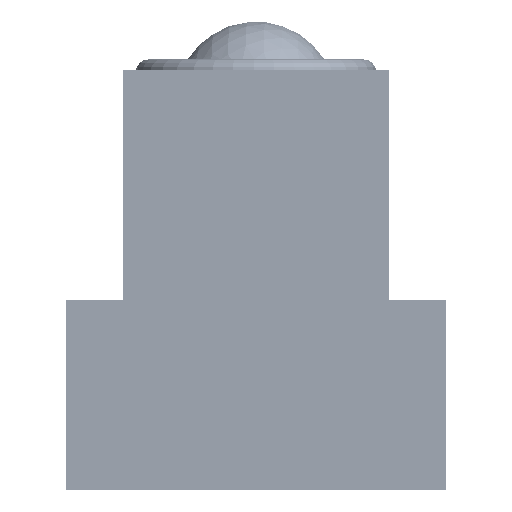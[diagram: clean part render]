
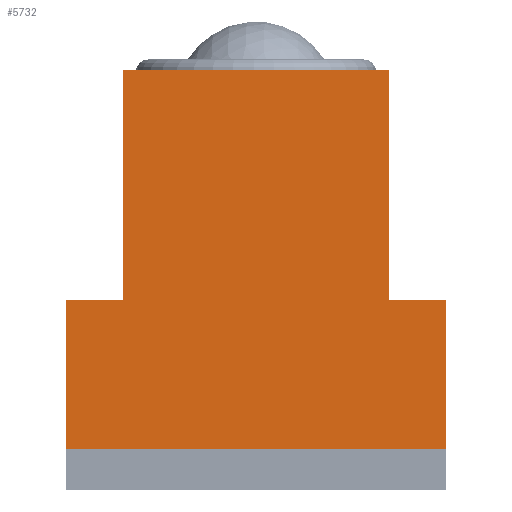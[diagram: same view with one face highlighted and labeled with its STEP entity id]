
A CAD part, left-side view. The second image highlights one B-rep face of the part: STEP entity #5732.
In plain terms, the highlighted planar face has unit normal (-1, 0, 0) as drawn and (0, 0, -1) by its records, which use the part's own axes.
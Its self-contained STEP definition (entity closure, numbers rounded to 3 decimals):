
#690=PLANE('',#6397);
#895=LINE('',#9922,#1151);
#899=LINE('',#9929,#1155);
#900=LINE('',#9933,#1156);
#904=LINE('',#9940,#1160);
#908=LINE('',#9947,#1164);
#909=LINE('',#9950,#1165);
#912=LINE('',#9956,#1168);
#915=LINE('',#9961,#1171);
#1151=VECTOR('',#7995,18.2);
#1155=VECTOR('',#8001,21.);
#1156=VECTOR('',#8004,11.8);
#1160=VECTOR('',#8010,4.5);
#1164=VECTOR('',#8016,18.2);
#1165=VECTOR('',#8019,4.5);
#1168=VECTOR('',#8024,11.8);
#1171=VECTOR('',#8029,30.);
#1948=FACE_OUTER_BOUND('',#2567,.T.);
#2567=EDGE_LOOP('',(#5190,#5191,#5192,#5193,#5194,#5195,#5196,#5197));
#3368=VERTEX_POINT('',#9919);
#3369=VERTEX_POINT('',#9921);
#3371=VERTEX_POINT('',#9927);
#3372=VERTEX_POINT('',#9931);
#3373=VERTEX_POINT('',#9932);
#3377=VERTEX_POINT('',#9945);
#3378=VERTEX_POINT('',#9949);
#3380=VERTEX_POINT('',#9955);
#3976=EDGE_CURVE('',#3368,#3369,#895,.T.);
#3980=EDGE_CURVE('',#3371,#3368,#899,.T.);
#3981=EDGE_CURVE('',#3372,#3373,#900,.T.);
#3985=EDGE_CURVE('',#3369,#3372,#904,.T.);
#3989=EDGE_CURVE('',#3377,#3371,#908,.T.);
#3990=EDGE_CURVE('',#3378,#3377,#909,.T.);
#3993=EDGE_CURVE('',#3380,#3378,#912,.T.);
#3996=EDGE_CURVE('',#3373,#3380,#915,.T.);
#5190=ORIENTED_EDGE('',*,*,#3996,.F.);
#5191=ORIENTED_EDGE('',*,*,#3981,.F.);
#5192=ORIENTED_EDGE('',*,*,#3985,.F.);
#5193=ORIENTED_EDGE('',*,*,#3976,.F.);
#5194=ORIENTED_EDGE('',*,*,#3980,.F.);
#5195=ORIENTED_EDGE('',*,*,#3989,.F.);
#5196=ORIENTED_EDGE('',*,*,#3990,.F.);
#5197=ORIENTED_EDGE('',*,*,#3993,.F.);
#5732=ADVANCED_FACE('',(#1948),#690,.F.);
#6397=AXIS2_PLACEMENT_3D('',#9964,#8033,#8034);
#7995=DIRECTION('',(0.,-1.,0.));
#8001=DIRECTION('',(-1.,0.,0.));
#8004=DIRECTION('',(0.,-1.,0.));
#8010=DIRECTION('',(-1.,0.,0.));
#8016=DIRECTION('',(0.,1.,0.));
#8019=DIRECTION('',(-1.,0.,0.));
#8024=DIRECTION('',(0.,1.,0.));
#8029=DIRECTION('',(1.,0.,0.));
#8033=DIRECTION('center_axis',(0.,0.,1.));
#8034=DIRECTION('ref_axis',(1.,0.,0.));
#9919=CARTESIAN_POINT('',(-10.5,30.,0.));
#9921=CARTESIAN_POINT('',(-10.5,11.8,0.));
#9922=CARTESIAN_POINT('',(-10.5,30.,0.));
#9927=CARTESIAN_POINT('',(10.5,30.,0.));
#9929=CARTESIAN_POINT('',(10.5,30.,0.));
#9931=CARTESIAN_POINT('',(-15.,11.8,0.));
#9932=CARTESIAN_POINT('',(-15.,0.,0.));
#9933=CARTESIAN_POINT('',(-15.,11.8,0.));
#9940=CARTESIAN_POINT('',(-10.5,11.8,0.));
#9945=CARTESIAN_POINT('',(10.5,11.8,0.));
#9947=CARTESIAN_POINT('',(10.5,11.8,0.));
#9949=CARTESIAN_POINT('',(15.,11.8,0.));
#9950=CARTESIAN_POINT('',(15.,11.8,0.));
#9955=CARTESIAN_POINT('',(15.,0.,0.));
#9956=CARTESIAN_POINT('',(15.,0.,0.));
#9961=CARTESIAN_POINT('',(-15.,0.,0.));
#9964=CARTESIAN_POINT('Origin',(0.,13.635,0.));
